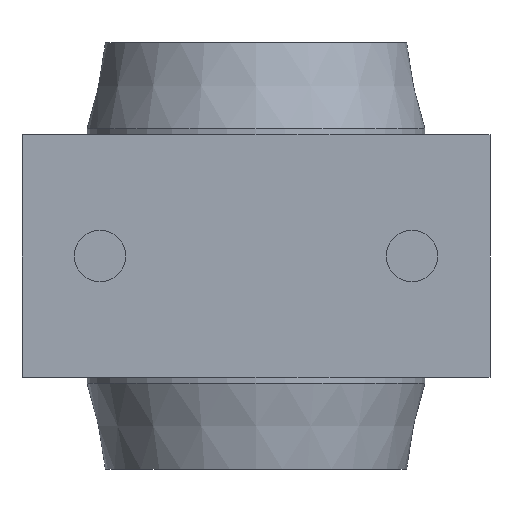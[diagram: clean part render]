
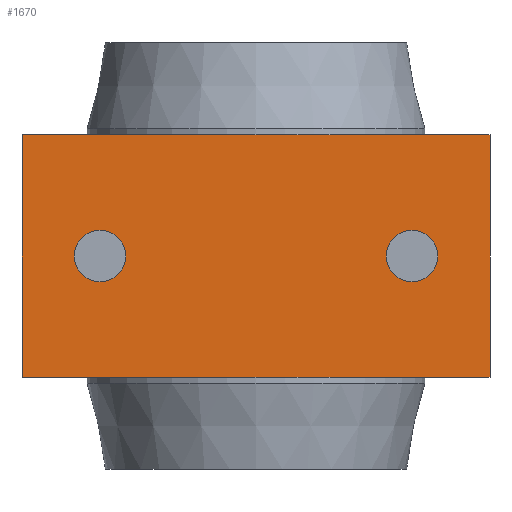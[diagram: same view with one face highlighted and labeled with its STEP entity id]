
A CAD part, front view. The second image highlights one B-rep face of the part: STEP entity #1670.
In plain terms, the highlighted planar face has unit normal (0, -1, 0).
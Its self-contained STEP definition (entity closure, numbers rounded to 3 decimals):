
#105=FACE_BOUND('',#300,.T.);
#106=FACE_BOUND('',#301,.T.);
#139=PLANE('',#1913);
#198=FACE_OUTER_BOUND('',#299,.T.);
#299=EDGE_LOOP('',(#1209,#1210,#1211,#1212));
#300=EDGE_LOOP('',(#1213,#1214));
#301=EDGE_LOOP('',(#1215,#1216));
#418=LINE('',#2757,#505);
#425=LINE('',#2773,#512);
#434=LINE('',#2808,#521);
#435=LINE('',#2810,#522);
#505=VECTOR('',#2165,10.);
#512=VECTOR('',#2178,10.);
#521=VECTOR('',#2221,10.);
#522=VECTOR('',#2224,10.);
#584=CIRCLE('',#1860,4.188);
#585=CIRCLE('',#1861,4.188);
#588=CIRCLE('',#1866,4.188);
#589=CIRCLE('',#1867,4.188);
#690=VERTEX_POINT('',#2686);
#691=VERTEX_POINT('',#2687);
#694=VERTEX_POINT('',#2697);
#695=VERTEX_POINT('',#2698);
#717=VERTEX_POINT('',#2754);
#718=VERTEX_POINT('',#2756);
#723=VERTEX_POINT('',#2770);
#724=VERTEX_POINT('',#2772);
#855=EDGE_CURVE('',#690,#691,#584,.T.);
#856=EDGE_CURVE('',#691,#690,#585,.T.);
#860=EDGE_CURVE('',#694,#695,#588,.T.);
#861=EDGE_CURVE('',#695,#694,#589,.T.);
#888=EDGE_CURVE('',#718,#717,#418,.T.);
#896=EDGE_CURVE('',#724,#723,#425,.T.);
#915=EDGE_CURVE('',#717,#724,#434,.T.);
#916=EDGE_CURVE('',#723,#718,#435,.T.);
#1209=ORIENTED_EDGE('',*,*,#915,.T.);
#1210=ORIENTED_EDGE('',*,*,#896,.T.);
#1211=ORIENTED_EDGE('',*,*,#916,.T.);
#1212=ORIENTED_EDGE('',*,*,#888,.T.);
#1213=ORIENTED_EDGE('',*,*,#855,.T.);
#1214=ORIENTED_EDGE('',*,*,#856,.T.);
#1215=ORIENTED_EDGE('',*,*,#860,.T.);
#1216=ORIENTED_EDGE('',*,*,#861,.T.);
#1670=ADVANCED_FACE('',(#198,#105,#106),#139,.F.);
#1860=AXIS2_PLACEMENT_3D('',#2688,#2091,#2092);
#1861=AXIS2_PLACEMENT_3D('',#2689,#2093,#2094);
#1866=AXIS2_PLACEMENT_3D('',#2699,#2104,#2105);
#1867=AXIS2_PLACEMENT_3D('',#2700,#2106,#2107);
#1913=AXIS2_PLACEMENT_3D('',#2811,#2225,#2226);
#2091=DIRECTION('center_axis',(0.,1.,0.));
#2092=DIRECTION('ref_axis',(-1.,0.,0.));
#2093=DIRECTION('center_axis',(0.,1.,0.));
#2094=DIRECTION('ref_axis',(-1.,0.,0.));
#2104=DIRECTION('center_axis',(0.,1.,0.));
#2105=DIRECTION('ref_axis',(-1.,0.,0.));
#2106=DIRECTION('center_axis',(0.,1.,0.));
#2107=DIRECTION('ref_axis',(-1.,0.,0.));
#2165=DIRECTION('',(1.,0.,0.));
#2178=DIRECTION('',(-1.,0.,0.));
#2221=DIRECTION('',(0.,0.,1.));
#2224=DIRECTION('',(0.,0.,-1.));
#2225=DIRECTION('center_axis',(0.,1.,0.));
#2226=DIRECTION('ref_axis',(0.,0.,1.));
#2686=CARTESIAN_POINT('',(-29.588,-36.5,0.));
#2687=CARTESIAN_POINT('',(-21.212,-36.5,0.));
#2688=CARTESIAN_POINT('Origin',(-25.4,-36.5,0.));
#2689=CARTESIAN_POINT('Origin',(-25.4,-36.5,0.));
#2697=CARTESIAN_POINT('',(21.212,-36.5,0.));
#2698=CARTESIAN_POINT('',(29.588,-36.5,0.));
#2699=CARTESIAN_POINT('Origin',(25.4,-36.5,0.));
#2700=CARTESIAN_POINT('Origin',(25.4,-36.5,0.));
#2754=CARTESIAN_POINT('',(38.1,-36.5,-19.75));
#2756=CARTESIAN_POINT('',(-38.1,-36.5,-19.75));
#2757=CARTESIAN_POINT('',(19.05,-36.5,-19.75));
#2770=CARTESIAN_POINT('',(-38.1,-36.5,19.75));
#2772=CARTESIAN_POINT('',(38.1,-36.5,19.75));
#2773=CARTESIAN_POINT('',(-19.05,-36.5,19.75));
#2808=CARTESIAN_POINT('',(38.1,-36.5,9.875));
#2810=CARTESIAN_POINT('',(-38.1,-36.5,-9.875));
#2811=CARTESIAN_POINT('Origin',(0.,-36.5,0.));
